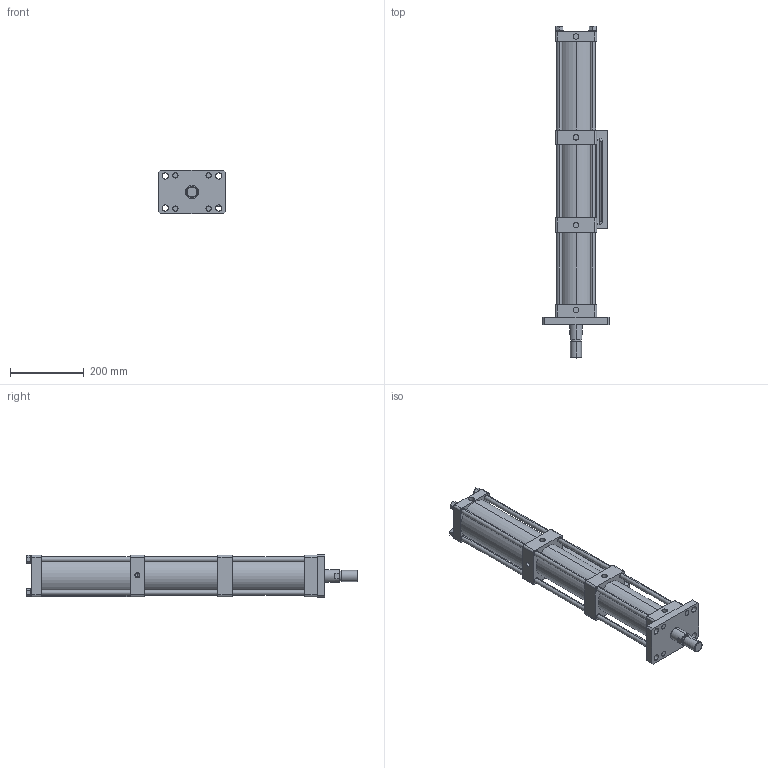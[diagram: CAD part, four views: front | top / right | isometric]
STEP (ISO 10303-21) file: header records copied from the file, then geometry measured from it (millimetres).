
FILE_DESCRIPTION (( 'STEP AP203' ), '1' );
FILE_NAME ('MPTF-80-150-15-5T.STEP', '2016-03-29T10:07:40', ( 'WIN' ), ( '' ), 'SwSTEP 2.0', 'SolidWorks 2014', '' );
FILE_SCHEMA (( 'CONFIG_CONTROL_DESIGN' ));
Length unit declared in the file: millimetre
Products named in the file (1): MPTF-80-150-15-5T
Bounding box: 180 x 900 x 118 mm (x, y, z)
Volume: 3700856.7 mm3; surface area: 765228.7 mm2
Topology: 5 solids, 5 shells, 266 faces, 632 edges, 413 vertices
Faces by surface type: cylinder 136, plane 120, cone 6, torus 4
Entity records: 7973 total; most frequent: DIRECTION 1448, CARTESIAN_POINT 1382, ORIENTED_EDGE 1260, EDGE_CURVE 630, AXIS2_PLACEMENT_3D 555, VERTEX_POINT 413, EDGE_LOOP 349, VECTOR 338
